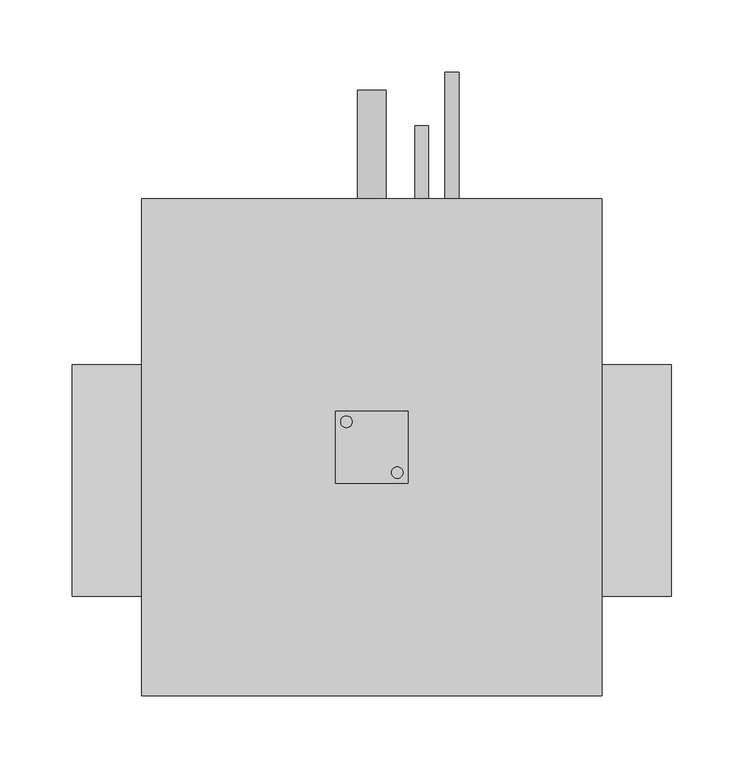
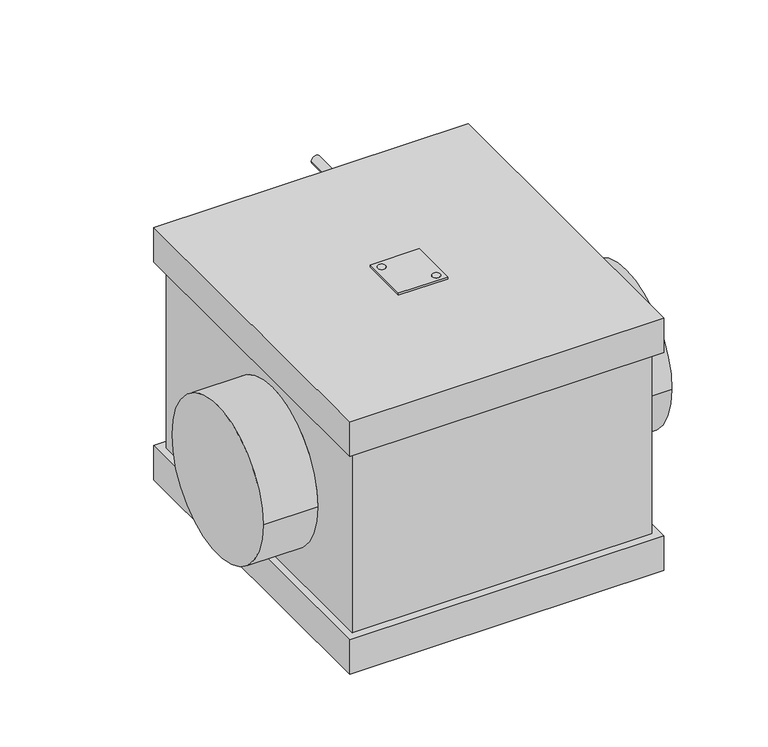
"""IFC4 building model written with IfcOpenShell, lengths in millimetres: proxy geometry, KORF_Охладитель_Фреоновый_Круглый_Правый_KFLO : KFLO 160/2."""

from ifc_helpers import new_model, si_unit, point, frame, frame_2d, origin, place, context, project, spatial, polyline, circle_curve, trimmed, segment, composite_curve, outline, extrude, source, transform, mapped, element, save
from ifc_brep_helpers import plane_surface, cylinder_surface, advanced_brep


def mechanical_equipment_e2b16cbb(model_context):
    return source(origin(), model_context, "Body", "SolidModel", [
        extrude(outline(composite_curve([segment(trimmed(circle_curve(frame_2d((189.9272934, 40.5745746)), 4.0), [point((185.9272934, 40.5745746))], [point((193.9272934, 40.5745746))], False, "CARTESIAN"), True, "CONTINUOUS"), segment(trimmed(circle_curve(frame_2d((189.9272934, 40.5745746)), 4.0), [point((193.9272934, 40.5745746))], [point((185.9272934, 40.5745746))], False, "CARTESIAN"), True, "CONTINUOUS")], self_intersect=False)), frame((0.0, 0.0, 135.5), z_axis=(0.0, 0.0, 1.0), x_axis=(1.0, 0.0, 0.0)), (0.0, 0.0, 1.0), 2.0),
        extrude(outline(composite_curve([segment(trimmed(circle_curve(frame_2d((225.0727066, 5.4254254)), 4.0), [point((229.0727066, 5.4254254))], [point((221.0727066, 5.4254254))], False, "CARTESIAN"), True, "CONTINUOUS"), segment(trimmed(circle_curve(frame_2d((225.0727066, 5.4254254)), 4.0), [point((221.0727066, 5.4254254))], [point((229.0727066, 5.4254254))], False, "CARTESIAN"), True, "CONTINUOUS")], self_intersect=False)), frame((0.0, 0.0, 135.5), z_axis=(0.0, 0.0, 1.0), x_axis=(1.0, 0.0, 0.0)), (0.0, 0.0, 1.0), 2.0),
        extrude(outline(polyline([(232.5, 48.0), (232.5, -2.0), (182.5, -2.0), (182.5, 48.0), (232.5, 48.0)]), holes=[composite_curve([segment(trimmed(circle_curve(frame_2d((189.9272934, 40.5745746)), 4.0), [point((185.9272934, 40.5745746))], [point((193.9272934, 40.5745746))], True, "CARTESIAN"), True, "CONTINUOUS"), segment(trimmed(circle_curve(frame_2d((189.9272934, 40.5745746)), 4.0), [point((193.9272934, 40.5745746))], [point((185.9272934, 40.5745746))], True, "CARTESIAN"), True, "CONTINUOUS")], self_intersect=False), composite_curve([segment(trimmed(circle_curve(frame_2d((225.0727066, 5.4254254)), 4.0), [point((229.0727066, 5.4254254))], [point((221.0727066, 5.4254254))], True, "CARTESIAN"), True, "CONTINUOUS"), segment(trimmed(circle_curve(frame_2d((225.0727066, 5.4254254)), 4.0), [point((221.0727066, 5.4254254))], [point((229.0727066, 5.4254254))], True, "CARTESIAN"), True, "CONTINUOUS")], self_intersect=False)]), frame((0.0, 0.0, 135.5), z_axis=(0.0, 0.0, 1.0), x_axis=(1.0, 0.0, 0.0)), (0.0, 0.0, 1.0), 2.0),
        advanced_brep(
        [(415.0, -80.0, 0.0), (415.0, 80.0, 0.0), (0.0, -80.0, 0.0), (0.0, 80.0, 0.0), (359.5, -80.0, 0.0), (359.5, 80.0, 0.0), (55.5, 80.0, 0.0), (55.5, -80.0, 0.0), (359.5, -140.5, -98.5), (359.5, 186.5, -98.5), (359.5, 186.5, 98.5), (359.5, -140.5, 98.5), (55.5, 186.5, -98.5), (55.5, -140.5, -98.5), (55.5, -140.5, 98.5), (55.5, 186.5, 98.5), (358.5, -140.5, -98.5), (358.5, -140.5, 98.5), (56.5, -140.5, 98.5), (56.5, -140.5, -98.5), (367.0, 195.0, -135.5), (367.0, -149.0, -135.5), (48.0, -149.0, -135.5), (48.0, 195.0, -135.5), (358.5, 186.5, -98.5), (56.5, 186.5, -98.5), (56.5, 186.5, 98.5), (358.5, 186.5, 98.5), (367.0, -149.0, 135.5), (367.0, 195.0, 135.5), (48.0, 195.0, 135.5), (48.0, -149.0, 135.5), (367.0, 195.0, -98.5), (367.0, -149.0, -98.5), (48.0, -149.0, -98.5), (48.0, 195.0, -98.5), (367.0, 195.0, 98.5), (367.0, -149.0, 98.5), (48.0, -149.0, 98.5), (48.0, 195.0, 98.5)],
        [
            (0, 1, circle_curve(frame((415.0, 0.0, 0.0), z_axis=(1.0, 0.0, 0.0), x_axis=(0.0, 1.0, 0.0)), 80.0)),
            (1, 0, circle_curve(frame((415.0, 0.0, 0.0), z_axis=(1.0, 0.0, 0.0), x_axis=(0.0, 1.0, 0.0)), 80.0)),
            (2, 3, circle_curve(frame((0.0, 0.0, 0.0), z_axis=(-1.0, 0.0, 0.0), x_axis=(0.0, 1.0, 0.0)), 80.0)),
            (3, 2, circle_curve(frame((0.0, 0.0, 0.0), z_axis=(-1.0, 0.0, 0.0), x_axis=(0.0, 1.0, 0.0)), 80.0)),
            (0, 4),
            (4, 5, circle_curve(frame((359.5, 0.0, 0.0), z_axis=(1.0, 0.0, 0.0), x_axis=(0.0, 1.0, 0.0)), 80.0)),
            (5, 1),
            (3, 6),
            (6, 7, circle_curve(frame((55.5, 0.0, 0.0), z_axis=(-1.0, 0.0, 0.0), x_axis=(0.0, 1.0, 0.0)), 80.0)),
            (7, 2),
            (5, 4, circle_curve(frame((359.5, 0.0, 0.0), z_axis=(1.0, 0.0, 0.0), x_axis=(0.0, 1.0, 0.0)), 80.0)),
            (7, 6, circle_curve(frame((55.5, 0.0, 0.0), z_axis=(-1.0, 0.0, 0.0), x_axis=(0.0, 1.0, 0.0)), 80.0)),
            (8, 9),
            (9, 10),
            (10, 11),
            (11, 8),
            (12, 13),
            (13, 14),
            (14, 15),
            (15, 12),
            (16, 8),
            (11, 17),
            (17, 18),
            (18, 14),
            (13, 19),
            (19, 16),
            (20, 21),
            (21, 22),
            (22, 23),
            (23, 20),
            (9, 24),
            (24, 25),
            (25, 12),
            (15, 26),
            (26, 27),
            (27, 10),
            (28, 29),
            (29, 30),
            (30, 31),
            (31, 28),
            (20, 32),
            (32, 33),
            (33, 21),
            (33, 34),
            (34, 22),
            (34, 35),
            (35, 23),
            (32, 35),
            (36, 29),
            (28, 37),
            (37, 36),
            (31, 38),
            (38, 37),
            (30, 39),
            (39, 38),
            (36, 39),
        ],
        [
            plane_surface(frame((415.0, 80.0, 0.0), z_axis=(1.0, 0.0, 0.0), x_axis=(0.0, 0.0, 1.0))),
            plane_surface(frame((0.0, 80.0, 0.0), z_axis=(-1.0, 0.0, 0.0), x_axis=(0.0, 0.0, -1.0))),
            cylinder_surface(frame((0.0, 0.0, 0.0), z_axis=(1.0, 0.0, 0.0), x_axis=(0.0, 1.0, 0.0)), 80.0),
            plane_surface(frame((359.5, -140.5, 135.5), z_axis=(1.0, 0.0, 0.0), x_axis=(0.0, 0.0, -1.0))),
            plane_surface(frame((55.5, -140.5, 135.5), z_axis=(-1.0, 0.0, 0.0), x_axis=(0.0, 0.0, 1.0))),
            plane_surface(frame((359.5, -140.5, 135.5), z_axis=(0.0, -1.0, 0.0), x_axis=(-1.0, 0.0, 0.0))),
            plane_surface(frame((359.5, -140.5, -135.5), z_axis=(0.0, 0.0, -1.0), x_axis=(-1.0, 0.0, 0.0))),
            plane_surface(frame((359.5, 186.5, -135.5), z_axis=(0.0, 1.0, 0.0), x_axis=(-1.0, 0.0, 0.0))),
            plane_surface(frame((359.5, 186.5, 135.5), z_axis=(0.0, 0.0, 1.0), x_axis=(-1.0, 0.0, 0.0))),
            plane_surface(frame((367.0, 195.0, -98.5), z_axis=(1.0, 0.0, 0.0), x_axis=(0.0, -1.0, 0.0))),
            plane_surface(frame((367.0, -149.0, -98.5), z_axis=(0.0, -1.0, 0.0), x_axis=(-1.0, 0.0, 0.0))),
            plane_surface(frame((48.0, -149.0, -98.5), z_axis=(-1.0, 0.0, 0.0), x_axis=(0.0, 1.0, 0.0))),
            plane_surface(frame((56.5, 186.5, -98.5), z_axis=(0.0, 0.0, 1.0), x_axis=(1.0, 0.0, 0.0))),
            plane_surface(frame((48.0, 195.0, -98.5), z_axis=(0.0, 1.0, 0.0), x_axis=(1.0, 0.0, 0.0))),
            plane_surface(frame((367.0, 195.0, 135.5), z_axis=(1.0, 0.0, 0.0), x_axis=(0.0, -1.0, 0.0))),
            plane_surface(frame((367.0, -149.0, 135.5), z_axis=(0.0, -1.0, 0.0), x_axis=(-1.0, 0.0, 0.0))),
            plane_surface(frame((48.0, -149.0, 135.5), z_axis=(-1.0, 0.0, 0.0), x_axis=(0.0, 1.0, 0.0))),
            plane_surface(frame((48.0, 195.0, 135.5), z_axis=(0.0, 1.0, 0.0), x_axis=(1.0, 0.0, 0.0))),
            plane_surface(frame((48.0, 195.0, 98.5), z_axis=(0.0, 0.0, -1.0), x_axis=(1.0, 0.0, 0.0))),
        ],
        [
            (0, [[1, 2]]),
            (1, [[3, 4]]),
            (2, [[-1, 5, 6, 7]]),
            (2, [[-4, 8, 9, 10]]),
            (2, [[-2, -7, 11, -5]]),
            (2, [[-3, -10, 12, -8]]),
            (3, [[13, 14, 15, 16], [-6, -11]]),
            (4, [[17, 18, 19, 20], [-9, -12]]),
            (5, [[21, -16, 22, 23, 24, -18, 25, 26]]),
            (6, [[27, 28, 29, 30]]),
            (7, [[31, 32, 33, -20, 34, 35, 36, -14]]),
            (8, [[37, 38, 39, 40]]),
            (9, [[41, 42, 43, -27]]),
            (10, [[-43, 44, 45, -28]]),
            (11, [[-45, 46, 47, -29]]),
            (12, [[-42, 48, -46, -44], [-13, -21, -26, -25, -17, -33, -32, -31]]),
            (13, [[-41, -30, -47, -48]]),
            (14, [[49, -37, 50, 51]]),
            (15, [[-50, -40, 52, 53]]),
            (16, [[-52, -39, 54, 55]]),
            (17, [[-49, 56, -54, -38]]),
            (18, [[-51, -53, -55, -56], [-15, -36, -35, -34, -19, -24, -23, -22]]),
        ],
    ),
        extrude(outline(composite_curve([segment(trimmed(circle_curve(frame_2d((-80.0, 242.0)), 4.76), [point((-80.0, 237.24))], [point((-80.0, 246.76))], False, "CARTESIAN"), True, "CONTINUOUS"), segment(trimmed(circle_curve(frame_2d((-80.0, 242.0)), 4.76), [point((-80.0, 246.76))], [point((-80.0, 237.24))], False, "CARTESIAN"), True, "CONTINUOUS")], self_intersect=False)), frame((0.0, 186.5, 0.0), z_axis=(0.0, 1.0, 0.0), x_axis=(0.0, 0.0, 1.0)), (0.0, 0.0, 1.0), 59.0),
        extrude(outline(composite_curve([segment(trimmed(circle_curve(frame_2d((80.0, 263.0)), 4.76), [point((80.0, 258.24))], [point((80.0, 267.76))], False, "CARTESIAN"), True, "CONTINUOUS"), segment(trimmed(circle_curve(frame_2d((80.0, 263.0)), 4.76), [point((80.0, 267.76))], [point((80.0, 258.24))], False, "CARTESIAN"), True, "CONTINUOUS")], self_intersect=False)), frame((0.0, 186.5, 0.0), z_axis=(0.0, 1.0, 0.0), x_axis=(0.0, 0.0, 1.0)), (0.0, 0.0, 1.0), 96.0),
        extrude(outline(composite_curve([segment(trimmed(circle_curve(frame_2d((-116.5, 207.5)), 10.0), [point((-116.5, 197.5))], [point((-116.5, 217.5))], False, "CARTESIAN"), True, "CONTINUOUS"), segment(trimmed(circle_curve(frame_2d((-116.5, 207.5)), 10.0), [point((-116.5, 217.5))], [point((-116.5, 197.5))], False, "CARTESIAN"), True, "CONTINUOUS")], self_intersect=False)), frame((0.0, 195.0, 0.0), z_axis=(0.0, 1.0, 0.0), x_axis=(0.0, 0.0, 1.0)), (0.0, 0.0, 1.0), 75.0),
    ])


if __name__ == "__main__":
    model = new_model("IFC4")
    model_context = context("Model", 3, world=origin())
    ifc_project = project(units=[si_unit("LENGTHUNIT", "METRE", prefix="MILLI")], contexts=[model_context])
    site = spatial("IfcSite", under=ifc_project)
    building = spatial("IfcBuilding", under=site)
    placement = place(None, origin())
    mechanical_equipment_shape = mechanical_equipment_e2b16cbb(model_context)
    element("IfcBuildingElementProxy", 1, Name="KORF_Охладитель_Фреоновый_Круглый_Правый_KFLO : KFLO 160/2", ObjectType="KORF_Охладитель_Фреоновый_Круглый_Правый_KFLO : KFLO 160/2", at=placement, inside=building, context=model_context, shape_type="MappedRepresentation", body=[
        mapped(mechanical_equipment_shape, transform((0.0, 0.0, 0.0), x_axis=(1.0, 0.0, 0.0), y_axis=(0.0, 1.0, 0.0), z_axis=(0.0, 0.0, 1.0))),
    ])
    save(model, "model.ifc")
